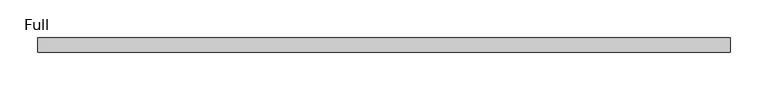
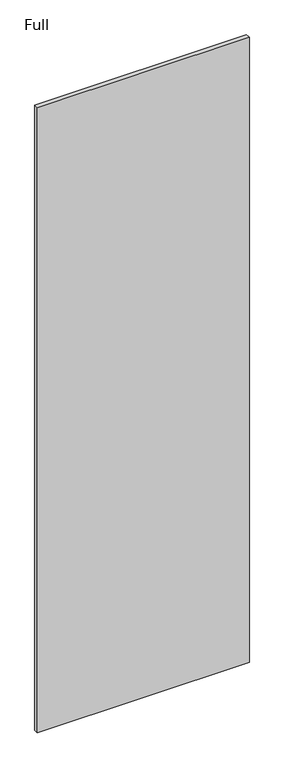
"""IFC4 building model written with IfcOpenShell, lengths in millimetres: proxy geometry, Panel-Fascia-Teknion-Altos-Standard : Full."""

from ifc_helpers import new_model, si_unit, frame, origin, place, context, project, spatial, polyline, outline, extrude, source, transform, mapped, element, save


def full_e445f669(model_context):
    return source(origin(), model_context, "Body", "SweptSolid", [
        extrude(outline(polyline([(455.6125, -9.525), (-455.6125, -9.525), (-455.6125, 9.525), (455.6125, 9.525), (455.6125, -9.525)])), frame((0.0, 0.0, 3.175), z_axis=(0.0, 0.0, 1.0), x_axis=(1.0, 0.0, 0.0)), (0.0, 0.0, 1.0), 2840.736),
    ])


if __name__ == "__main__":
    model = new_model("IFC4")
    model_context = context("Model", 3, world=origin())
    ifc_project = project(units=[si_unit("LENGTHUNIT", "METRE", prefix="MILLI")], contexts=[model_context])
    site = spatial("IfcSite", under=ifc_project)
    building = spatial("IfcBuilding", under=site)
    placement = place(None, origin())
    full_shape = full_e445f669(model_context)
    element("IfcBuildingElementProxy", 1, Name="Panel-Fascia-Teknion-Altos-Standard : Full", ObjectType="Panel-Fascia-Teknion-Altos-Standard : Full", at=placement, inside=building, context=model_context, shape_type="MappedRepresentation", body=[
        mapped(full_shape, transform((0.0, 0.0, 0.0), x_axis=(1.0, 0.0, 0.0), y_axis=(0.0, 1.0, 0.0), z_axis=(0.0, 0.0, 1.0))),
    ])
    save(model, "model.ifc")
